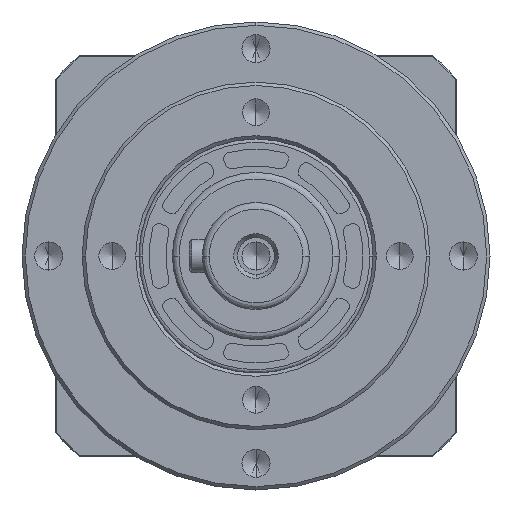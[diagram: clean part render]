
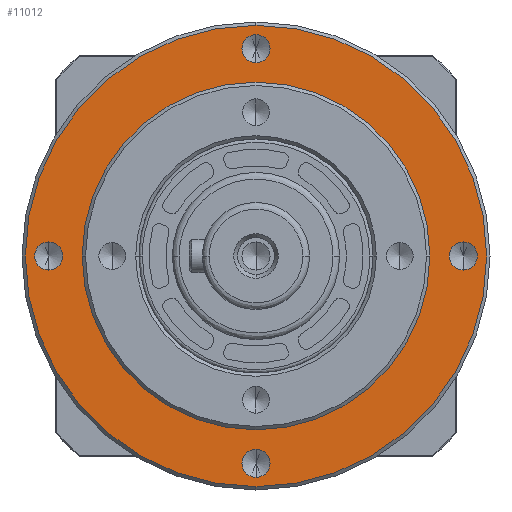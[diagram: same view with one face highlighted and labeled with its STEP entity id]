
A CAD part, left-side view. The second image highlights one B-rep face of the part: STEP entity #11012.
In plain terms, the highlighted planar face has unit normal (-1, 0, 0).
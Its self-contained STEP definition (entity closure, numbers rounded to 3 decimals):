
#265 = ORIENTED_EDGE ( 'NONE', *, *, #13584, .F. ) ;
#389 = EDGE_LOOP ( 'NONE', ( #6018, #19744 ) ) ;
#401 = AXIS2_PLACEMENT_3D ( 'NONE', #21743, #13024, #2521 ) ;
#576 = PLANE ( 'NONE',  #2199 ) ;
#618 = VERTEX_POINT ( 'NONE', #4220 ) ;
#646 = CARTESIAN_POINT ( 'NONE',  ( 0., 0., 0. ) ) ;
#719 = CIRCLE ( 'NONE', #21671, 34.5 ) ;
#1259 = EDGE_CURVE ( 'NONE', #618, #8719, #1595, .T. ) ;
#1595 = CIRCLE ( 'NONE', #2615, 2.1 ) ;
#2130 = CARTESIAN_POINT ( 'NONE',  ( 0., 0., 0. ) ) ;
#2158 = DIRECTION ( 'NONE',  ( 0., 0., 1. ) ) ;
#2199 = AXIS2_PLACEMENT_3D ( 'NONE', #646, #2407, #14514 ) ;
#2201 = DIRECTION ( 'NONE',  ( -1., 0., 0. ) ) ;
#2239 = CARTESIAN_POINT ( 'NONE',  ( 0., 31., 0. ) ) ;
#2407 = DIRECTION ( 'NONE',  ( 1., 0., 0. ) ) ;
#2462 = FACE_BOUND ( 'NONE', #7912, .T. ) ;
#2521 = DIRECTION ( 'NONE',  ( 0., 1., 0. ) ) ;
#2615 = AXIS2_PLACEMENT_3D ( 'NONE', #15175, #12016, #15249 ) ;
#2924 = AXIS2_PLACEMENT_3D ( 'NONE', #9279, #14966, #14488 ) ;
#3330 = ORIENTED_EDGE ( 'NONE', *, *, #17115, .F. ) ;
#3354 = AXIS2_PLACEMENT_3D ( 'NONE', #18771, #22153, #4762 ) ;
#3478 = DIRECTION ( 'NONE',  ( 0., 0., 1. ) ) ;
#3642 = CARTESIAN_POINT ( 'NONE',  ( 0., 0., -31. ) ) ;
#3716 = VERTEX_POINT ( 'NONE', #8921 ) ;
#3751 = CARTESIAN_POINT ( 'NONE',  ( 0., -31., -2.1 ) ) ;
#3917 = EDGE_LOOP ( 'NONE', ( #10335, #265 ) ) ;
#4028 = ORIENTED_EDGE ( 'NONE', *, *, #13036, .F. ) ;
#4062 = VERTEX_POINT ( 'NONE', #5817 ) ;
#4185 = CARTESIAN_POINT ( 'NONE',  ( 0., 0., 34.5 ) ) ;
#4220 = CARTESIAN_POINT ( 'NONE',  ( 0., -31., 2.1 ) ) ;
#4370 = FACE_BOUND ( 'NONE', #14508, .T. ) ;
#4648 = CARTESIAN_POINT ( 'NONE',  ( 0., 0., -28.9 ) ) ;
#4762 = DIRECTION ( 'NONE',  ( 0., 0., -1. ) ) ;
#4830 = CARTESIAN_POINT ( 'NONE',  ( 0., 31., -2.1 ) ) ;
#5290 = ORIENTED_EDGE ( 'NONE', *, *, #10511, .F. ) ;
#5453 = DIRECTION ( 'NONE',  ( -1., 0., 0. ) ) ;
#5654 = ORIENTED_EDGE ( 'NONE', *, *, #19163, .F. ) ;
#5776 = DIRECTION ( 'NONE',  ( 0., 1., 0. ) ) ;
#5817 = CARTESIAN_POINT ( 'NONE',  ( 0., 26., 0. ) ) ;
#5892 = CIRCLE ( 'NONE', #21225, 2.1 ) ;
#5986 = FACE_BOUND ( 'NONE', #389, .T. ) ;
#6018 = ORIENTED_EDGE ( 'NONE', *, *, #7269, .F. ) ;
#6175 = CIRCLE ( 'NONE', #401, 26. ) ;
#6257 = FACE_OUTER_BOUND ( 'NONE', #16813, .T. ) ;
#6926 = CIRCLE ( 'NONE', #20132, 2.1 ) ;
#7269 = EDGE_CURVE ( 'NONE', #13156, #17751, #19829, .T. ) ;
#7912 = EDGE_LOOP ( 'NONE', ( #10199, #14756 ) ) ;
#8192 = CIRCLE ( 'NONE', #10133, 26. ) ;
#8618 = CIRCLE ( 'NONE', #2924, 2.1 ) ;
#8719 = VERTEX_POINT ( 'NONE', #3751 ) ;
#8921 = CARTESIAN_POINT ( 'NONE',  ( 0., -26., 0. ) ) ;
#9279 = CARTESIAN_POINT ( 'NONE',  ( 0., 0., 31. ) ) ;
#9334 = CARTESIAN_POINT ( 'NONE',  ( 0., -31., 0. ) ) ;
#9345 = CARTESIAN_POINT ( 'NONE',  ( 0., 0., 28.9 ) ) ;
#9346 = VERTEX_POINT ( 'NONE', #17684 ) ;
#10133 = AXIS2_PLACEMENT_3D ( 'NONE', #2130, #10824, #5776 ) ;
#10199 = ORIENTED_EDGE ( 'NONE', *, *, #15495, .F. ) ;
#10335 = ORIENTED_EDGE ( 'NONE', *, *, #16223, .F. ) ;
#10393 = CARTESIAN_POINT ( 'NONE',  ( 0., 0., -31. ) ) ;
#10500 = DIRECTION ( 'NONE',  ( 0., 0., 1. ) ) ;
#10511 = EDGE_CURVE ( 'NONE', #4062, #3716, #8192, .T. ) ;
#10824 = DIRECTION ( 'NONE',  ( -1., 0., 0. ) ) ;
#10970 = FACE_BOUND ( 'NONE', #3917, .T. ) ;
#11012 = ADVANCED_FACE ( 'NONE', ( #5986, #10970, #15611, #2462, #6257, #4370 ), #576, .F. ) ;
#11062 = CARTESIAN_POINT ( 'NONE',  ( 0., 31., 2.1 ) ) ;
#11273 = DIRECTION ( 'NONE',  ( 0., 0., -1. ) ) ;
#11490 = CARTESIAN_POINT ( 'NONE',  ( 0., 0., 0. ) ) ;
#11808 = CIRCLE ( 'NONE', #17403, 2.1 ) ;
#11812 = DIRECTION ( 'NONE',  ( -1., 0., 0. ) ) ;
#11886 = CARTESIAN_POINT ( 'NONE',  ( 0., 0., 31. ) ) ;
#11995 = VERTEX_POINT ( 'NONE', #9345 ) ;
#12016 = DIRECTION ( 'NONE',  ( -1., 0., 0. ) ) ;
#12780 = DIRECTION ( 'NONE',  ( 0., 0., 1. ) ) ;
#13024 = DIRECTION ( 'NONE',  ( -1., 0., 0. ) ) ;
#13036 = EDGE_CURVE ( 'NONE', #3716, #4062, #6175, .T. ) ;
#13156 = VERTEX_POINT ( 'NONE', #11062 ) ;
#13405 = DIRECTION ( 'NONE',  ( 0., 0., 1. ) ) ;
#13514 = EDGE_LOOP ( 'NONE', ( #21348, #16508 ) ) ;
#13584 = EDGE_CURVE ( 'NONE', #9346, #18226, #16243, .T. ) ;
#13622 = DIRECTION ( 'NONE',  ( -1., 0., 0. ) ) ;
#14488 = DIRECTION ( 'NONE',  ( 0., 0., 1. ) ) ;
#14508 = EDGE_LOOP ( 'NONE', ( #5290, #4028 ) ) ;
#14514 = DIRECTION ( 'NONE',  ( 0., 0., -1. ) ) ;
#14756 = ORIENTED_EDGE ( 'NONE', *, *, #19101, .F. ) ;
#14928 = DIRECTION ( 'NONE',  ( 1., 0., 0. ) ) ;
#14966 = DIRECTION ( 'NONE',  ( -1., 0., 0. ) ) ;
#15175 = CARTESIAN_POINT ( 'NONE',  ( 0., -31., 0. ) ) ;
#15249 = DIRECTION ( 'NONE',  ( 0., 0., 1. ) ) ;
#15257 = CARTESIAN_POINT ( 'NONE',  ( 0., 0., -34.5 ) ) ;
#15495 = EDGE_CURVE ( 'NONE', #19479, #11995, #11808, .T. ) ;
#15553 = VERTEX_POINT ( 'NONE', #15257 ) ;
#15611 = FACE_BOUND ( 'NONE', #13514, .T. ) ;
#15869 = VERTEX_POINT ( 'NONE', #4185 ) ;
#16223 = EDGE_CURVE ( 'NONE', #18226, #9346, #18855, .T. ) ;
#16243 = CIRCLE ( 'NONE', #19253, 2.1 ) ;
#16508 = ORIENTED_EDGE ( 'NONE', *, *, #18118, .F. ) ;
#16813 = EDGE_LOOP ( 'NONE', ( #5654, #3330 ) ) ;
#16978 = AXIS2_PLACEMENT_3D ( 'NONE', #17307, #13622, #10500 ) ;
#17115 = EDGE_CURVE ( 'NONE', #15869, #15553, #719, .T. ) ;
#17307 = CARTESIAN_POINT ( 'NONE',  ( 0., 31., 0. ) ) ;
#17403 = AXIS2_PLACEMENT_3D ( 'NONE', #11886, #11812, #13405 ) ;
#17684 = CARTESIAN_POINT ( 'NONE',  ( 0., 0., -33.1 ) ) ;
#17746 = DIRECTION ( 'NONE',  ( 0., 0., 1. ) ) ;
#17751 = VERTEX_POINT ( 'NONE', #4830 ) ;
#17959 = CIRCLE ( 'NONE', #3354, 34.5 ) ;
#18118 = EDGE_CURVE ( 'NONE', #8719, #618, #5892, .T. ) ;
#18192 = DIRECTION ( 'NONE',  ( -1., 0., 0. ) ) ;
#18226 = VERTEX_POINT ( 'NONE', #4648 ) ;
#18771 = CARTESIAN_POINT ( 'NONE',  ( 0., 0., 0. ) ) ;
#18855 = CIRCLE ( 'NONE', #22089, 2.1 ) ;
#19101 = EDGE_CURVE ( 'NONE', #11995, #19479, #8618, .T. ) ;
#19163 = EDGE_CURVE ( 'NONE', #15553, #15869, #17959, .T. ) ;
#19253 = AXIS2_PLACEMENT_3D ( 'NONE', #3642, #5453, #17746 ) ;
#19479 = VERTEX_POINT ( 'NONE', #19895 ) ;
#19744 = ORIENTED_EDGE ( 'NONE', *, *, #21321, .F. ) ;
#19829 = CIRCLE ( 'NONE', #16978, 2.1 ) ;
#19895 = CARTESIAN_POINT ( 'NONE',  ( 0., 0., 33.1 ) ) ;
#20132 = AXIS2_PLACEMENT_3D ( 'NONE', #2239, #18192, #2158 ) ;
#21225 = AXIS2_PLACEMENT_3D ( 'NONE', #9334, #2201, #12780 ) ;
#21321 = EDGE_CURVE ( 'NONE', #17751, #13156, #6926, .T. ) ;
#21348 = ORIENTED_EDGE ( 'NONE', *, *, #1259, .F. ) ;
#21671 = AXIS2_PLACEMENT_3D ( 'NONE', #11490, #14928, #11273 ) ;
#21743 = CARTESIAN_POINT ( 'NONE',  ( 0., 0., 0. ) ) ;
#22089 = AXIS2_PLACEMENT_3D ( 'NONE', #10393, #22642, #3478 ) ;
#22153 = DIRECTION ( 'NONE',  ( 1., 0., 0. ) ) ;
#22642 = DIRECTION ( 'NONE',  ( -1., 0., 0. ) ) ;
